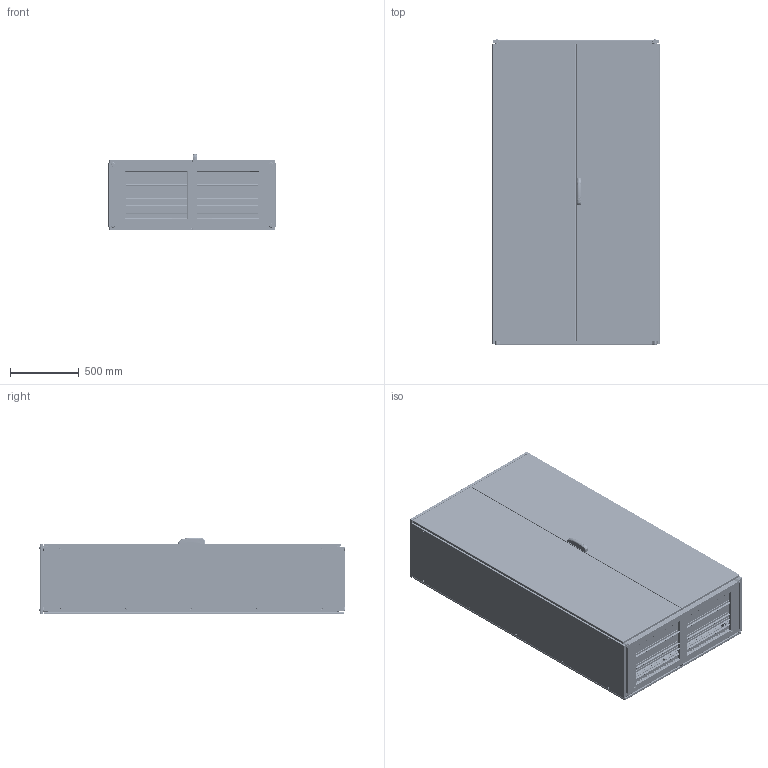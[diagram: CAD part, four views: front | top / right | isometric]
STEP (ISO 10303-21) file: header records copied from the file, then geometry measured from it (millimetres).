
FILE_DESCRIPTION (( 'STEP AP203' ), '1' );
FILE_NAME ('ENUX122205PR.STEP', '2025-05-29T14:09:35', ( '' ), ( '' ), 'SwSTEP 2.0', 'SolidWorks 2022', '' );
FILE_SCHEMA (( 'CONFIG_CONTROL_DESIGN' ));
Products named in the file (14): AR_ENUX_Porta_CB_2.0_1200x2200_ANT_DX; AR_ENUX_nuova_maniglia_mesan; ENUX122205PR; AR_ENUX_Tegolino_1200x0100; AR_ENUX_Fianco_0500x2200_DX; AR_ENUX_Tegolino_1200x0050; AR_ENUX_Struttura_1200x2200x0500; AR_ENUX_montaggio_porta_IB_2.0_1200x2200_ANT_DX; AR_ENUX_Retro_IB_1200x2200; AR_ENUX_Vite_tetto; AR_ENUX_Retro_CB_1200x2200; AR_ENUX_Tetto_1200x0500; AR_ENUX_Porta_IB_2.0_1200x2200_ANT; AR_ENUX_Fianco_0500x2200_SX
Assembly tree (22 placements, depth 3):
  ENUX122205PR
    AR_ENUX_Struttura_1200x2200x0500
    AR_ENUX_Fianco_0500x2200_SX
    AR_ENUX_Fianco_0500x2200_DX
    AR_ENUX_Tetto_1200x0500
    AR_ENUX_Vite_tetto  x4
    AR_ENUX_Tegolino_1200x0050  x4
    AR_ENUX_Tegolino_1200x0100  x4
    AR_ENUX_Retro_CB_1200x2200
    AR_ENUX_Retro_IB_1200x2200
    AR_ENUX_montaggio_porta_IB_2.0_1200x2200_ANT_DX
      AR_ENUX_Porta_IB_2.0_1200x2200_ANT
      AR_ENUX_nuova_maniglia_mesan
    AR_ENUX_Porta_CB_2.0_1200x2200_ANT_DX
Bounding box: 1212 x 2215.1 x 557 mm (x, y, z)
Volume: 19028093 mm3; surface area: 26810029.2 mm2
Topology: 21 solids, 22 shells, 11546 faces, 32757 edges, 21131 vertices
Faces by surface type: plane 6226, cylinder 4279, bspline 369, torus 314, cone 266, sphere 92
Entity records: 410024 total; most frequent: CARTESIAN_POINT 104941, ORIENTED_EDGE 63148, DIRECTION 60920, EDGE_CURVE 31574, VECTOR 21528, LINE 21528, VERTEX_POINT 20573, AXIS2_PLACEMENT_3D 19696
